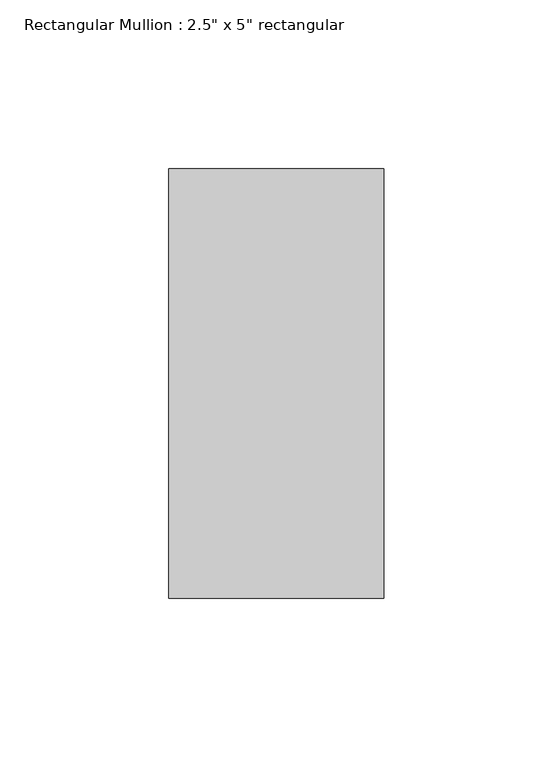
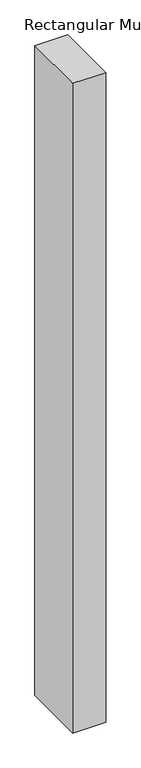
"""IFC4 building model written with IfcOpenShell, lengths in millimetres: member geometry."""

from ifc_helpers import new_model, si_unit, frame, origin, place, context, project, spatial, polyline, outline, extrude, source, transform, mapped, element, save


def member_bf97bf69(model_context):
    return source(origin(), model_context, "Body", "SweptSolid", [
        extrude(outline(polyline([(0.0, 63.5), (0.0, -63.5), (-63.5, -63.5), (-63.5, 63.5), (0.0, 63.5)])), frame((0.0, 0.0, -1327.4090909), z_axis=(0.0, 0.0, 1.0), x_axis=(1.0, 0.0, 0.0)), (0.0, 0.0, 1.0), 1327.4090909),
    ])


if __name__ == "__main__":
    model = new_model("IFC4")
    model_context = context("Model", 3, world=origin())
    ifc_project = project(units=[si_unit("LENGTHUNIT", "METRE", prefix="MILLI")], contexts=[model_context])
    site = spatial("IfcSite", under=ifc_project)
    building = spatial("IfcBuilding", under=site)
    placement = place(None, origin())
    member_shape = member_bf97bf69(model_context)
    element("IfcMember", 1, ObjectType="Rectangular Mullion : 2.5\" x 5\" rectangular", at=placement, inside=building, context=model_context, shape_type="MappedRepresentation", body=[
        mapped(member_shape, transform((0.0, 0.0, 0.0), x_axis=(1.0, 0.0, 0.0), y_axis=(0.0, 1.0, 0.0), z_axis=(0.0, 0.0, 1.0))),
    ])
    save(model, "model.ifc")
